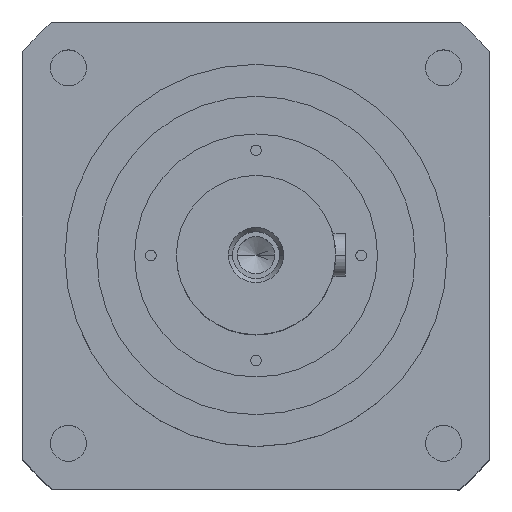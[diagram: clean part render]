
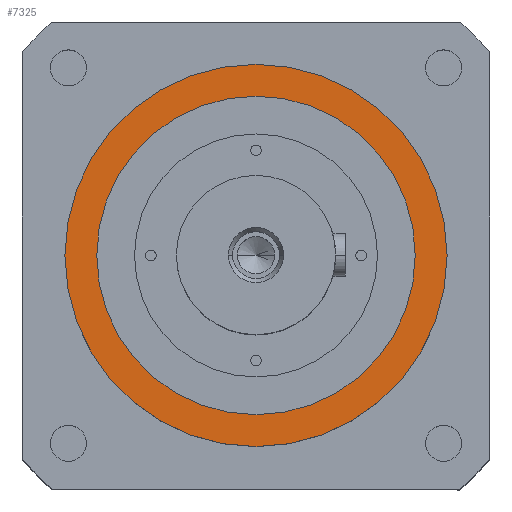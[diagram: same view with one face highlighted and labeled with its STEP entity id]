
A CAD part, top view. The second image highlights one B-rep face of the part: STEP entity #7325.
In plain terms, the highlighted planar face has unit normal (0, 0, 1).
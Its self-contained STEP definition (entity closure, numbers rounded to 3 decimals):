
#6700 = VERTEX_POINT ( 'NONE', #8903 ) ;
#6701 = EDGE_CURVE ( 'NONE', #6705, #6700, #8886, .T. ) ;
#6705 = VERTEX_POINT ( 'NONE', #8998 ) ;
#7093 = VERTEX_POINT ( 'NONE', #9557 ) ;
#7104 = EDGE_CURVE ( 'NONE', #7093, #7120, #9955, .T. ) ;
#7120 = VERTEX_POINT ( 'NONE', #9892 ) ;
#7140 = EDGE_CURVE ( 'NONE', #7120, #7093, #9841, .T. ) ;
#7322 = EDGE_LOOP ( 'NONE', ( #7326, #7328 ) ) ;
#7325 = ADVANCED_FACE ( 'NONE', ( #10038, #10022 ), #10017, .F. ) ;
#7326 = ORIENTED_EDGE ( 'NONE', *, *, #6701, .T. ) ;
#7327 = ORIENTED_EDGE ( 'NONE', *, *, #7104, .F. ) ;
#7328 = ORIENTED_EDGE ( 'NONE', *, *, #7761, .T. ) ;
#7618 = EDGE_LOOP ( 'NONE', ( #7669, #7327 ) ) ;
#7669 = ORIENTED_EDGE ( 'NONE', *, *, #7140, .F. ) ;
#7761 = EDGE_CURVE ( 'NONE', #6700, #6705, #10626, .T. ) ;
#8884 = AXIS2_PLACEMENT_3D ( 'NONE', #8978, #8997, #8996 ) ;
#8886 = CIRCLE ( 'NONE', #8884, 90. ) ;
#8903 = CARTESIAN_POINT ( 'NONE',  ( -90., 0., 30. ) ) ;
#8978 = CARTESIAN_POINT ( 'NONE',  ( 0., 0., 30. ) ) ;
#8996 = DIRECTION ( 'NONE',  ( 1., 0., 0. ) ) ;
#8997 = DIRECTION ( 'NONE',  ( 0., 0., 1. ) ) ;
#8998 = CARTESIAN_POINT ( 'NONE',  ( 90., 0., 30. ) ) ;
#9557 = CARTESIAN_POINT ( 'NONE',  ( -75., 0., 30. ) ) ;
#9763 = DIRECTION ( 'NONE',  ( 1., 0., 0. ) ) ;
#9766 = DIRECTION ( 'NONE',  ( 0., 0., 1. ) ) ;
#9767 = AXIS2_PLACEMENT_3D ( 'NONE', #9773, #9766, #9763 ) ;
#9773 = CARTESIAN_POINT ( 'NONE',  ( 0., 0., 30. ) ) ;
#9775 = DIRECTION ( 'NONE',  ( 1., 0., 0. ) ) ;
#9776 = DIRECTION ( 'NONE',  ( 0., 0., 1. ) ) ;
#9841 = CIRCLE ( 'NONE', #9767, 75. ) ;
#9892 = CARTESIAN_POINT ( 'NONE',  ( 75., 0., 30. ) ) ;
#9903 = AXIS2_PLACEMENT_3D ( 'NONE', #9904, #9776, #9775 ) ;
#9904 = CARTESIAN_POINT ( 'NONE',  ( 0., 0., 30. ) ) ;
#9955 = CIRCLE ( 'NONE', #9903, 75. ) ;
#10017 = PLANE ( 'NONE',  #10088 ) ;
#10022 = FACE_OUTER_BOUND ( 'NONE', #7322, .T. ) ;
#10038 = FACE_BOUND ( 'NONE', #7618, .T. ) ;
#10080 = DIRECTION ( 'NONE',  ( -1., 0., 0. ) ) ;
#10088 = AXIS2_PLACEMENT_3D ( 'NONE', #10091, #10090, #10080 ) ;
#10090 = DIRECTION ( 'NONE',  ( 0., 0., -1. ) ) ;
#10091 = CARTESIAN_POINT ( 'NONE',  ( 0., 90., 30. ) ) ;
#10623 = DIRECTION ( 'NONE',  ( 1., 0., 0. ) ) ;
#10624 = DIRECTION ( 'NONE',  ( 0., 0., 1. ) ) ;
#10625 = CARTESIAN_POINT ( 'NONE',  ( 0., 0., 30. ) ) ;
#10626 = CIRCLE ( 'NONE', #10640, 90. ) ;
#10640 = AXIS2_PLACEMENT_3D ( 'NONE', #10625, #10624, #10623 ) ;
